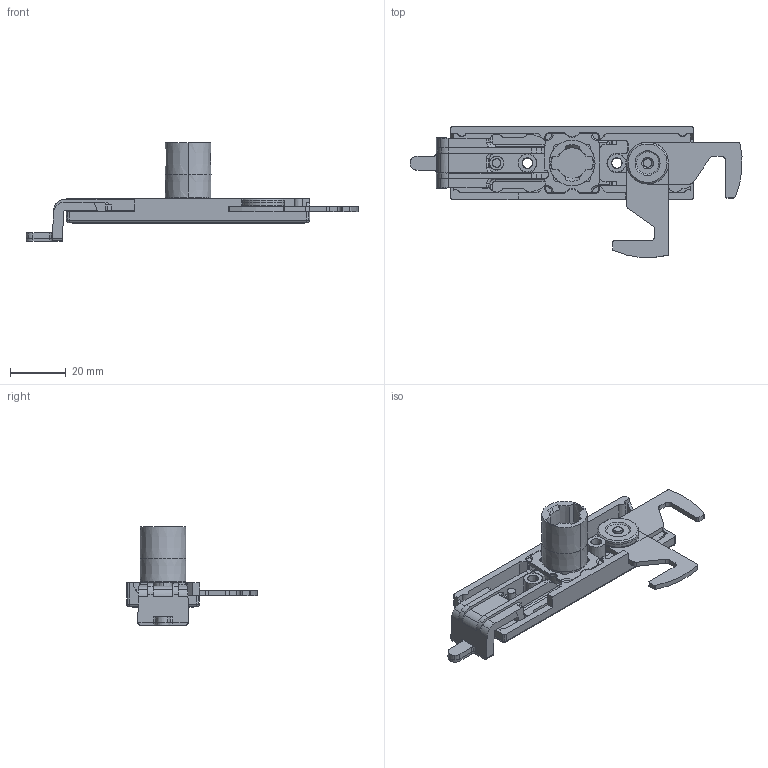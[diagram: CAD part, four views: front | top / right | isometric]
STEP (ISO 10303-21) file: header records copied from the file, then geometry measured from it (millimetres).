
FILE_DESCRIPTION (( 'STEP AP203' ), '1' );
FILE_NAME ('LEHMANN Zámek skøíòový 415.01 pravý_L00058_3D.stp', '2023-06-22T09:30:50', ( '' ), ( '' ), 'SwSTEP 2.0', 'SolidWorks 2019', '' );
FILE_SCHEMA (( 'CONFIG_CONTROL_DESIGN' ));
Length unit declared in the file: millimetre
Products named in the file (3): jazycek pro_L00058_3D; LEHMANN Zámek skøíòový 415.01bez jazycku; LEHMANN Zámek skøíòový 415.01 pravý_L00058_3D
Assembly tree (3 placements, depth 2):
  LEHMANN Zámek skøíòový 415.01 pravý_L00058_3D
    LEHMANN Zámek skøíòový 415.01bez jazycku
    jazycek pro_L00058_3D  x2
Bounding box: 118.78 x 46.86 x 35.25 mm (x, y, z)
Volume: 17587.9 mm3; surface area: 16082.5 mm2
Topology: 4 solids, 4 shells, 671 faces, 1911 edges, 1237 vertices
Faces by surface type: plane 280, cone 262, cylinder 104, bspline 18, sphere 4, torus 3
Entity records: 22397 total; most frequent: CARTESIAN_POINT 5406, ORIENTED_EDGE 3708, DIRECTION 3423, EDGE_CURVE 1854, AXIS2_PLACEMENT_3D 1269, VERTEX_POINT 1199, LINE 885, VECTOR 885
